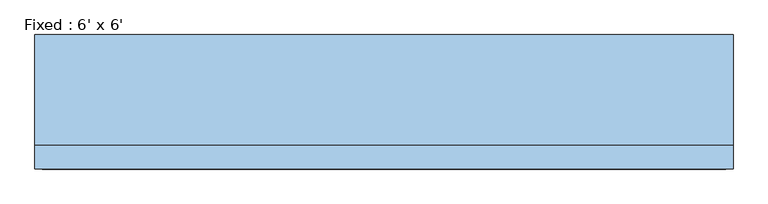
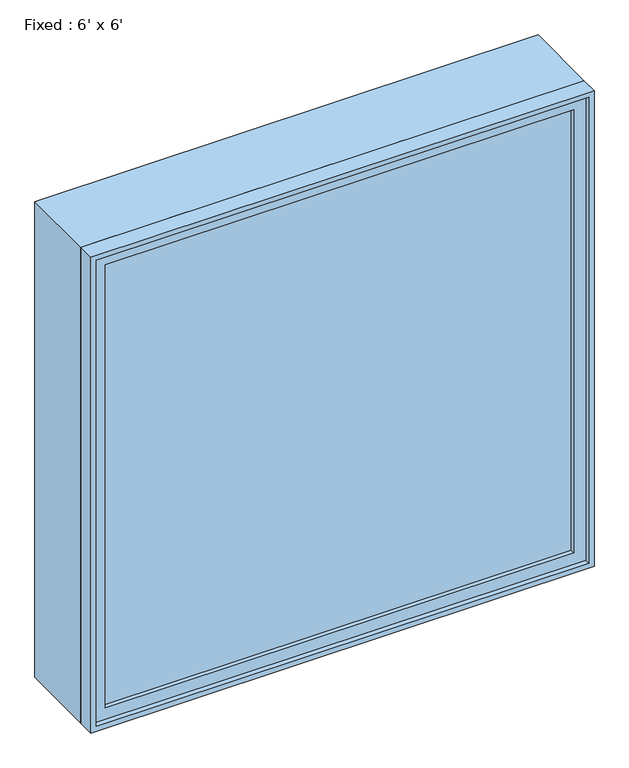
"""IFC4 building model written with IfcOpenShell, lengths in millimetres: window geometry, Fixed : 6' x 6'."""

from ifc_helpers import new_model, si_unit, frame, origin, place, context, project, spatial, polyline, outline, extrude, source, transform, mapped, element, save


def fixed_6_x_6_d3be8ccb(model_context):
    return source(origin(), model_context, "Body", "SweptSolid", [
        extrude(outline(polyline([(812.8, -128.5875), (812.8, -141.2875), (-889.0, -141.2875), (-889.0, -128.5875), (812.8, -128.5875)])), frame((0.0, 0.0, 977.9), z_axis=(0.0, 0.0, 1.0), x_axis=(1.0, 0.0, 0.0)), (0.0, 0.0, 1.0), 1701.8),
        extrude(outline(polyline([(2724.15, -933.45), (933.45, -933.45), (933.45, 857.25), (2724.15, 857.25), (2724.15, -933.45)]), holes=[polyline([(2679.7, -889.0), (2679.7, 812.8), (977.9, 812.8), (977.9, -889.0), (2679.7, -889.0)])]), frame((0.0, -157.1625, 0.0), z_axis=(0.0, 1.0, 0.0), x_axis=(0.0, 0.0, 1.0)), (0.0, 0.0, 1.0), 44.45),
        extrude(outline(polyline([(2743.2, -952.5), (914.4, -952.5), (914.4, 876.3), (2743.2, 876.3), (2743.2, -952.5)]), holes=[polyline([(2711.45, -920.75), (2711.45, 844.55), (946.15, 844.55), (946.15, -920.75), (2711.45, -920.75)])]), frame((0.0, -112.7125, 0.0), z_axis=(0.0, 1.0, 0.0), x_axis=(0.0, 0.0, 1.0)), (0.0, 0.0, 1.0), 288.925),
        extrude(outline(polyline([(2743.2, 876.3), (2743.2, -952.5), (914.4, -952.5), (914.4, 876.3), (2743.2, 876.3)]), holes=[polyline([(2724.15, 857.25), (933.45, 857.25), (933.45, -933.45), (2724.15, -933.45), (2724.15, 857.25)])]), frame((0.0, -176.2125, 0.0), z_axis=(0.0, 1.0, 0.0), x_axis=(0.0, 0.0, 1.0)), (0.0, 0.0, 1.0), 63.5),
    ])


if __name__ == "__main__":
    model = new_model("IFC4")
    model_context = context("Model", 3, world=origin())
    ifc_project = project(units=[si_unit("LENGTHUNIT", "METRE", prefix="MILLI")], contexts=[model_context])
    site = spatial("IfcSite", under=ifc_project)
    building = spatial("IfcBuilding", under=site)
    placement = place(None, origin())
    fixed_6_x_6_shape = fixed_6_x_6_d3be8ccb(model_context)
    element("IfcWindow", 1, ObjectType="Fixed : 6' x 6'", at=placement, inside=building, context=model_context, shape_type="MappedRepresentation", body=[
        mapped(fixed_6_x_6_shape, transform((0.0, 0.0, 0.0), x_axis=(1.0, 0.0, 0.0), y_axis=(0.0, 1.0, 0.0), z_axis=(0.0, 0.0, 1.0))),
    ])
    save(model, "model.ifc")
